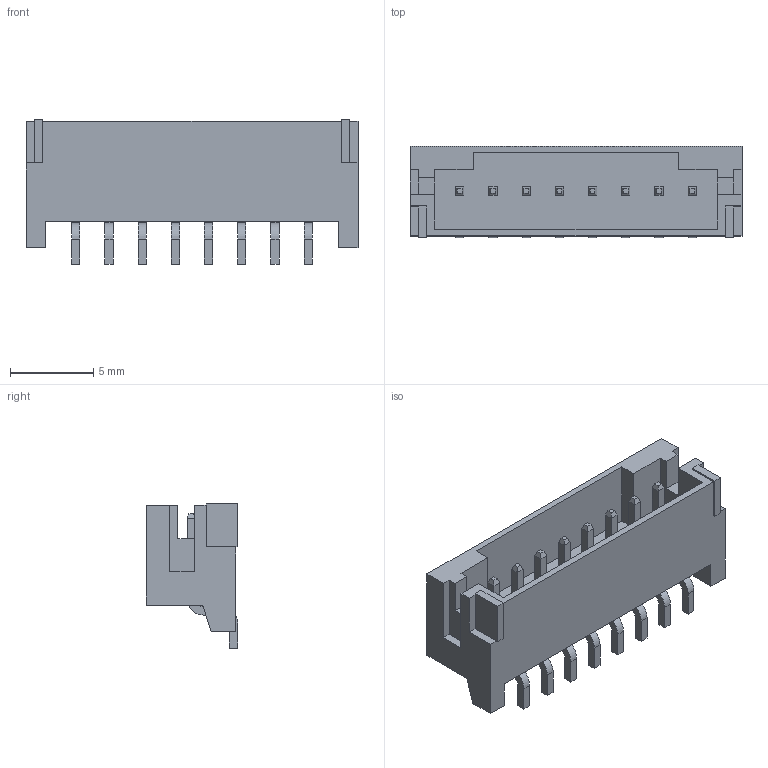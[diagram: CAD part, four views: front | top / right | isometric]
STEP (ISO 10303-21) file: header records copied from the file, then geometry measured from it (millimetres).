
FILE_DESCRIPTION (( 'STEP AP214' ), '1' );
FILE_NAME ('S8B-PH-SM4-TB.STEP', '2011-05-17T11:27:12', ( 'vpeshkov' ), ( 'licard' ), 'SwSTEP 2.0', 'SolidWorks 2009', '' );
FILE_SCHEMA (( 'AUTOMOTIVE_DESIGN' ));
Length unit declared in the file: millimetre
Products named in the file (1): S8B-PH-SM4-TB
Bounding box: 20 x 5.5 x 8.7 mm (x, y, z)
Volume: 358 mm3; surface area: 854.6 mm2
Topology: 1 solids, 1 shells, 218 faces, 564 edges, 364 vertices
Faces by surface type: plane 186, cylinder 32
Entity records: 8450 total; most frequent: CARTESIAN_POINT 1147, ORIENTED_EDGE 1128, DIRECTION 1066, EDGE_CURVE 564, VECTOR 500, LINE 500, VERTEX_POINT 364, AXIS2_PLACEMENT_3D 283
